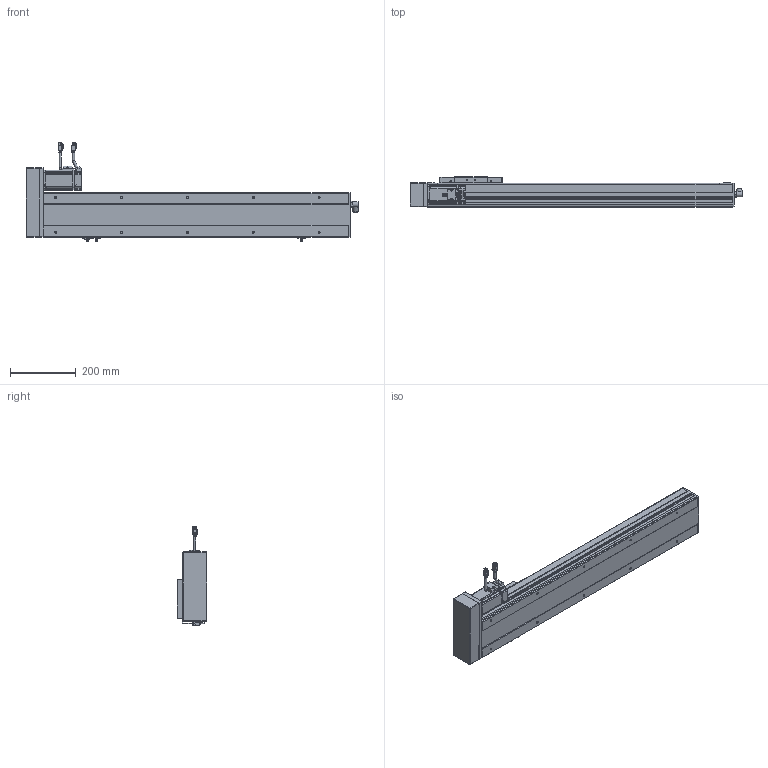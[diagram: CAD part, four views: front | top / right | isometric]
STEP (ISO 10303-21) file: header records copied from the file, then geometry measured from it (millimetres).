
FILE_DESCRIPTION(/* description */ ('STEP AP214'),/* implementation_level */ '2;1');
FILE_NAME(/* name */ 'PSC140-L05-S650-BL-P40-C1-N(0)',/* time_stamp */ '2022-06-13T03:27:17+02:00',/* author */ ('License CC BY-ND 4.0'),/* organization */ ('CADENAS'),/* preprocessor_version */ 'ST-DEVELOPER v18.102',/* originating_system */ 'PARTsolutions',/* authorisation */ ' ');
FILE_SCHEMA (('PROCESS_PLANNING_SCHEMA','AUTOMOTIVE_DESIGN {1 0 10303 214 3 1 1}'));
Length unit declared in the file: millimetre
Products named in the file (11): PSC140-L05-S650-BL-P40-C1-N(0); P40-s2; P40-c2; P40-s1; P40-c1; P40-p1; PSC140-BL-body2; PSC140-sensor; PSC140-BL-SLIDER; PSC140-S650-BL-P40-C1_BODY1; PSC140-L05-S650-BL-P40-C1-N(0)_dummy
Assembly tree (12 placements, depth 2):
  PSC140-L05-S650-BL-P40-C1-N(0)
    P40-s2
    P40-c2
    P40-s1
    P40-c1
    P40-p1
    PSC140-BL-body2
    PSC140-sensor  x3
    PSC140-BL-SLIDER
    PSC140-S650-BL-P40-C1_BODY1
    PSC140-L05-S650-BL-P40-C1-N(0)_dummy
Bounding box: 1008 x 91 x 300.88 mm (x, y, z)
Volume: 10395875.4 mm3; surface area: 627329.1 mm2
Topology: 11 solids, 11 shells, 1225 faces, 3169 edges, 2097 vertices
Faces by surface type: plane 856, cylinder 312, cone 38, torus 19
Full cylindrical faces by diameter (mm): 1 x8, 2.6 x10, 2.8 x3, 3.3 x8, 4.5 x12, 4.6 x3, 4.917 x14, 5 x4, 5.5 x8, 6 x10, 7 x10, 9 x2, 10 x1, 11 x1, 12 x1, 13.74 x1, 14 x1, 16.4 x2, 16.5 x1, 36 x1, 50 x2
Entity records: 33966 total; most frequent: CARTESIAN_POINT 5935, DIRECTION 5707, ORIENTED_EDGE 5522, EDGE_CURVE 2761, LINE 2097, VECTOR 2097, VERTEX_POINT 1918, AXIS2_PLACEMENT_3D 1805
